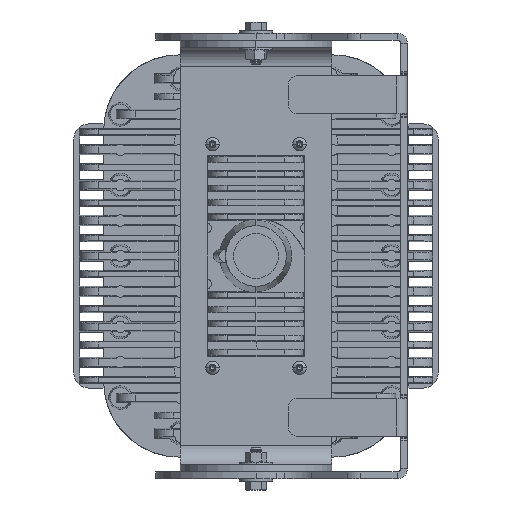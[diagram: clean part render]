
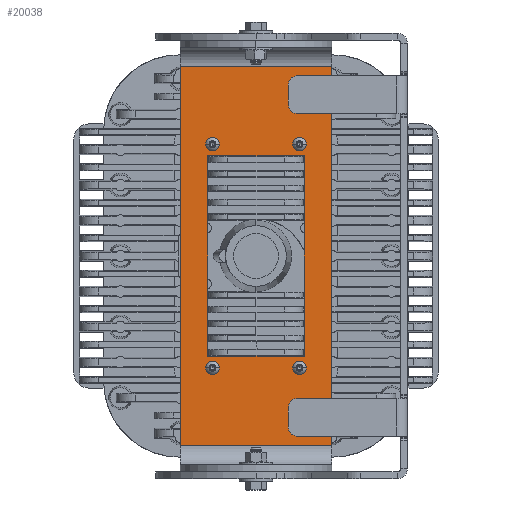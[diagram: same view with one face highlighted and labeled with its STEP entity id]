
A CAD part, left-side view. The second image highlights one B-rep face of the part: STEP entity #20038.
In plain terms, the highlighted planar face has unit normal (-1, 0, 0) as drawn and (0, 0, 1) by its records, which use the part's own axes.
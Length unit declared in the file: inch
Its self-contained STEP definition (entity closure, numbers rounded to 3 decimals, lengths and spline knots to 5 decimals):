
#233 = LINE ( 'NONE', #9993, #39980 ) ;
#310 = CARTESIAN_POINT ( 'NONE',  ( -2.65, 1.275, 0. ) ) ;
#414 = CARTESIAN_POINT ( 'NONE',  ( 2.65, -1.275, 0. ) ) ;
#1432 = CARTESIAN_POINT ( 'NONE',  ( 2.83, 1.15, 0. ) ) ;
#1953 = VERTEX_POINT ( 'NONE', #4222 ) ;
#2202 = FACE_BOUND ( 'NONE', #27667, .T. ) ;
#2243 = CARTESIAN_POINT ( 'NONE',  ( -2.65, -1.275, 0. ) ) ;
#2344 = DIRECTION ( 'NONE',  ( -1., 0., 0. ) ) ;
#2424 = DIRECTION ( 'NONE',  ( 1., 0., 0. ) ) ;
#2610 = DIRECTION ( 'NONE',  ( 0., 0., 1. ) ) ;
#2698 = ORIENTED_EDGE ( 'NONE', *, *, #44329, .F. ) ;
#3030 = CIRCLE ( 'NONE', #4185, 0.125 ) ;
#3732 = DIRECTION ( 'NONE',  ( 1., 0., 0. ) ) ;
#4185 = AXIS2_PLACEMENT_3D ( 'NONE', #12070, #40713, #16176 ) ;
#4222 = CARTESIAN_POINT ( 'NONE',  ( 3.08, 1.15, 0. ) ) ;
#4457 = EDGE_CURVE ( 'NONE', #1953, #11873, #16742, .T. ) ;
#4725 = VERTEX_POINT ( 'NONE', #33811 ) ;
#4932 = CARTESIAN_POINT ( 'NONE',  ( 2.65, 1.275, 0. ) ) ;
#5147 = DIRECTION ( 'NONE',  ( 1., 0., 0. ) ) ;
#5191 = LINE ( 'NONE', #37943, #46165 ) ;
#5453 = AXIS2_PLACEMENT_3D ( 'NONE', #30115, #5515, #34215 ) ;
#5515 = DIRECTION ( 'NONE',  ( 0., 0., 1. ) ) ;
#6262 = VERTEX_POINT ( 'NONE', #4932 ) ;
#6885 = EDGE_CURVE ( 'NONE', #33316, #24328, #17811, .T. ) ;
#6922 = VECTOR ( 'NONE', #22727, 39.37008 ) ;
#7162 = AXIS2_PLACEMENT_3D ( 'NONE', #31844, #7267, #35963 ) ;
#7267 = DIRECTION ( 'NONE',  ( 0., 0., 1. ) ) ;
#8036 = DIRECTION ( 'NONE',  ( 0., 1., 0. ) ) ;
#9760 = EDGE_CURVE ( 'NONE', #32110, #34036, #12903, .T. ) ;
#9993 = CARTESIAN_POINT ( 'NONE',  ( 2.65, 1.275, 0. ) ) ;
#10155 = EDGE_CURVE ( 'NONE', #35403, #17322, #45526, .T. ) ;
#10252 = AXIS2_PLACEMENT_3D ( 'NONE', #52799, #28303, #3732 ) ;
#10366 = EDGE_CURVE ( 'NONE', #20170, #4725, #50010, .T. ) ;
#10443 = EDGE_CURVE ( 'NONE', #48224, #6262, #23061, .T. ) ;
#11743 = ORIENTED_EDGE ( 'NONE', *, *, #15358, .T. ) ;
#11873 = VERTEX_POINT ( 'NONE', #1432 ) ;
#11892 = ORIENTED_EDGE ( 'NONE', *, *, #32790, .F. ) ;
#12070 = CARTESIAN_POINT ( 'NONE',  ( 2.955, -1.15, 0. ) ) ;
#12168 = VECTOR ( 'NONE', #37339, 39.37008 ) ;
#12205 = ORIENTED_EDGE ( 'NONE', *, *, #25793, .F. ) ;
#12386 = VERTEX_POINT ( 'NONE', #33663 ) ;
#12751 = DIRECTION ( 'NONE',  ( 0., 0., 1. ) ) ;
#12903 = CIRCLE ( 'NONE', #10252, 0.125 ) ;
#13104 = FACE_OUTER_BOUND ( 'NONE', #34904, .T. ) ;
#13152 = PLANE ( 'NONE',  #51186 ) ;
#13329 = CARTESIAN_POINT ( 'NONE',  ( -8.335, 0., 0. ) ) ;
#14101 = DIRECTION ( 'NONE',  ( -1., 0., 0. ) ) ;
#14366 = FACE_BOUND ( 'NONE', #18834, .T. ) ;
#14422 = ORIENTED_EDGE ( 'NONE', *, *, #26030, .F. ) ;
#14456 = LINE ( 'NONE', #45071, #32443 ) ;
#14953 = VERTEX_POINT ( 'NONE', #19784 ) ;
#15358 = EDGE_CURVE ( 'NONE', #14953, #12386, #39816, .T. ) ;
#15382 = VECTOR ( 'NONE', #2424, 39.37008 ) ;
#15784 = VECTOR ( 'NONE', #8036, 39.37008 ) ;
#16176 = DIRECTION ( 'NONE',  ( 1., 0., 0. ) ) ;
#16742 = CIRCLE ( 'NONE', #30120, 0.125 ) ;
#17322 = VERTEX_POINT ( 'NONE', #28565 ) ;
#17546 = DIRECTION ( 'NONE',  ( 0., 0., 1. ) ) ;
#17789 = ORIENTED_EDGE ( 'NONE', *, *, #9760, .F. ) ;
#17811 = LINE ( 'NONE', #43164, #6922 ) ;
#17864 = EDGE_CURVE ( 'NONE', #17322, #14953, #28003, .T. ) ;
#18386 = CARTESIAN_POINT ( 'NONE',  ( 2.65, -1.275, 0. ) ) ;
#18834 = EDGE_LOOP ( 'NONE', ( #31128, #21506 ) ) ;
#19740 = CIRCLE ( 'NONE', #51343, 0.125 ) ;
#19784 = CARTESIAN_POINT ( 'NONE',  ( 5.0125, 2., 0. ) ) ;
#20038 = ADVANCED_FACE ( 'NONE', ( #2202, #47058, #14366, #33651, #22705, #13104 ), #13152, .T. ) ;
#20127 = DIRECTION ( 'NONE',  ( 0., 0., 1. ) ) ;
#20170 = VERTEX_POINT ( 'NONE', #51088 ) ;
#21506 = ORIENTED_EDGE ( 'NONE', *, *, #23593, .F. ) ;
#21574 = DIRECTION ( 'NONE',  ( 0., 0., 1. ) ) ;
#22705 = FACE_BOUND ( 'NONE', #50475, .T. ) ;
#22727 = DIRECTION ( 'NONE',  ( 0., -1., 0. ) ) ;
#22773 = CARTESIAN_POINT ( 'NONE',  ( -8.335, 2., 0. ) ) ;
#23061 = LINE ( 'NONE', #414, #12168 ) ;
#23593 = EDGE_CURVE ( 'NONE', #11873, #1953, #19740, .T. ) ;
#24328 = VERTEX_POINT ( 'NONE', #2243 ) ;
#24931 = EDGE_LOOP ( 'NONE', ( #35280, #43364, #2698, #36923 ) ) ;
#25793 = EDGE_CURVE ( 'NONE', #34036, #32110, #38734, .T. ) ;
#26030 = EDGE_CURVE ( 'NONE', #4725, #20170, #29772, .T. ) ;
#26303 = VERTEX_POINT ( 'NONE', #50404 ) ;
#26883 = ORIENTED_EDGE ( 'NONE', *, *, #28840, .F. ) ;
#26980 = CARTESIAN_POINT ( 'NONE',  ( 8.335, -2., 0. ) ) ;
#27168 = CARTESIAN_POINT ( 'NONE',  ( 2.955, 1.15, 0. ) ) ;
#27667 = EDGE_LOOP ( 'NONE', ( #14422, #51487 ) ) ;
#27886 = CARTESIAN_POINT ( 'NONE',  ( -2.83, 1.15, 0. ) ) ;
#28003 = LINE ( 'NONE', #44777, #15784 ) ;
#28303 = DIRECTION ( 'NONE',  ( 0., 0., 1. ) ) ;
#28565 = CARTESIAN_POINT ( 'NONE',  ( 5.0125, -2., 0. ) ) ;
#28840 = EDGE_CURVE ( 'NONE', #26303, #44880, #3030, .T. ) ;
#29331 = ORIENTED_EDGE ( 'NONE', *, *, #10155, .T. ) ;
#29772 = CIRCLE ( 'NONE', #7162, 0.125 ) ;
#30115 = CARTESIAN_POINT ( 'NONE',  ( -2.955, 1.15, 0. ) ) ;
#30120 = AXIS2_PLACEMENT_3D ( 'NONE', #27168, #2610, #31300 ) ;
#31128 = ORIENTED_EDGE ( 'NONE', *, *, #4457, .F. ) ;
#31300 = DIRECTION ( 'NONE',  ( 1., 0., 0. ) ) ;
#31844 = CARTESIAN_POINT ( 'NONE',  ( -2.955, -1.15, 0. ) ) ;
#32110 = VERTEX_POINT ( 'NONE', #27886 ) ;
#32443 = VECTOR ( 'NONE', #40960, 39.37008 ) ;
#32790 = EDGE_CURVE ( 'NONE', #44880, #26303, #40926, .T. ) ;
#32817 = VECTOR ( 'NONE', #2344, 39.37008 ) ;
#32962 = AXIS2_PLACEMENT_3D ( 'NONE', #44688, #20127, #48805 ) ;
#33316 = VERTEX_POINT ( 'NONE', #310 ) ;
#33651 = FACE_BOUND ( 'NONE', #24931, .T. ) ;
#33663 = CARTESIAN_POINT ( 'NONE',  ( -5.0125, 2., 0. ) ) ;
#33811 = CARTESIAN_POINT ( 'NONE',  ( -2.83, -1.15, 0. ) ) ;
#34036 = VERTEX_POINT ( 'NONE', #51634 ) ;
#34215 = DIRECTION ( 'NONE',  ( 1., 0., 0. ) ) ;
#34904 = EDGE_LOOP ( 'NONE', ( #29331, #49643, #11743, #37501 ) ) ;
#35280 = ORIENTED_EDGE ( 'NONE', *, *, #40223, .F. ) ;
#35403 = VERTEX_POINT ( 'NONE', #53043 ) ;
#35963 = DIRECTION ( 'NONE',  ( 1., 0., 0. ) ) ;
#36878 = AXIS2_PLACEMENT_3D ( 'NONE', #37301, #12751, #41396 ) ;
#36923 = ORIENTED_EDGE ( 'NONE', *, *, #10443, .F. ) ;
#37301 = CARTESIAN_POINT ( 'NONE',  ( 2.955, -1.15, 0. ) ) ;
#37339 = DIRECTION ( 'NONE',  ( 0., 1., 0. ) ) ;
#37501 = ORIENTED_EDGE ( 'NONE', *, *, #43090, .F. ) ;
#37943 = CARTESIAN_POINT ( 'NONE',  ( -2.65, -1.275, 0. ) ) ;
#38734 = CIRCLE ( 'NONE', #5453, 0.125 ) ;
#39816 = LINE ( 'NONE', #22773, #32817 ) ;
#39980 = VECTOR ( 'NONE', #14101, 39.37008 ) ;
#40223 = EDGE_CURVE ( 'NONE', #24328, #48224, #5191, .T. ) ;
#40713 = DIRECTION ( 'NONE',  ( 0., 0., 1. ) ) ;
#40926 = CIRCLE ( 'NONE', #36878, 0.125 ) ;
#40960 = DIRECTION ( 'NONE',  ( 0., 1., 0. ) ) ;
#41396 = DIRECTION ( 'NONE',  ( 1., 0., 0. ) ) ;
#42089 = CARTESIAN_POINT ( 'NONE',  ( 2.955, 1.15, 0. ) ) ;
#43090 = EDGE_CURVE ( 'NONE', #35403, #12386, #14456, .T. ) ;
#43164 = CARTESIAN_POINT ( 'NONE',  ( -2.65, 1.275, 0. ) ) ;
#43364 = ORIENTED_EDGE ( 'NONE', *, *, #6885, .F. ) ;
#44329 = EDGE_CURVE ( 'NONE', #6262, #33316, #233, .T. ) ;
#44688 = CARTESIAN_POINT ( 'NONE',  ( -2.955, -1.15, 0. ) ) ;
#44777 = CARTESIAN_POINT ( 'NONE',  ( 5.0125, 0., 0. ) ) ;
#44880 = VERTEX_POINT ( 'NONE', #51458 ) ;
#45071 = CARTESIAN_POINT ( 'NONE',  ( -5.0125, 0., 0. ) ) ;
#45526 = LINE ( 'NONE', #26980, #15382 ) ;
#46165 = VECTOR ( 'NONE', #5147, 39.37008 ) ;
#46192 = DIRECTION ( 'NONE',  ( 1., 0., 0. ) ) ;
#47058 = FACE_BOUND ( 'NONE', #52729, .T. ) ;
#48224 = VERTEX_POINT ( 'NONE', #18386 ) ;
#48805 = DIRECTION ( 'NONE',  ( 1., 0., 0. ) ) ;
#49643 = ORIENTED_EDGE ( 'NONE', *, *, #17864, .T. ) ;
#50010 = CIRCLE ( 'NONE', #32962, 0.125 ) ;
#50227 = DIRECTION ( 'NONE',  ( 1., 0., 0. ) ) ;
#50404 = CARTESIAN_POINT ( 'NONE',  ( 2.83, -1.15, 0. ) ) ;
#50475 = EDGE_LOOP ( 'NONE', ( #17789, #12205 ) ) ;
#51088 = CARTESIAN_POINT ( 'NONE',  ( -3.08, -1.15, 0. ) ) ;
#51186 = AXIS2_PLACEMENT_3D ( 'NONE', #13329, #21574, #50227 ) ;
#51343 = AXIS2_PLACEMENT_3D ( 'NONE', #42089, #17546, #46192 ) ;
#51458 = CARTESIAN_POINT ( 'NONE',  ( 3.08, -1.15, 0. ) ) ;
#51487 = ORIENTED_EDGE ( 'NONE', *, *, #10366, .F. ) ;
#51634 = CARTESIAN_POINT ( 'NONE',  ( -3.08, 1.15, 0. ) ) ;
#52729 = EDGE_LOOP ( 'NONE', ( #11892, #26883 ) ) ;
#52799 = CARTESIAN_POINT ( 'NONE',  ( -2.955, 1.15, 0. ) ) ;
#53043 = CARTESIAN_POINT ( 'NONE',  ( -5.0125, -2., 0. ) ) ;
